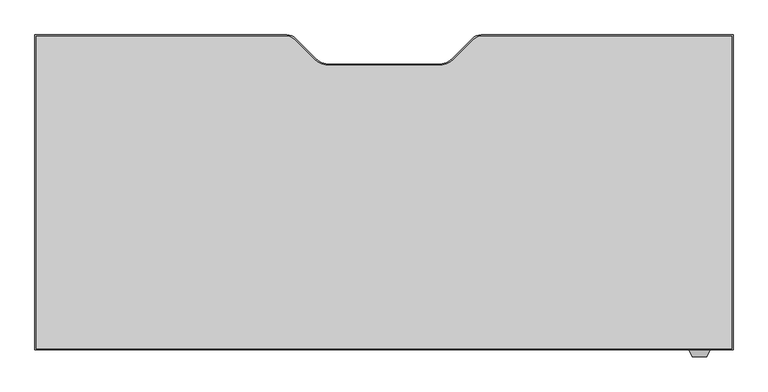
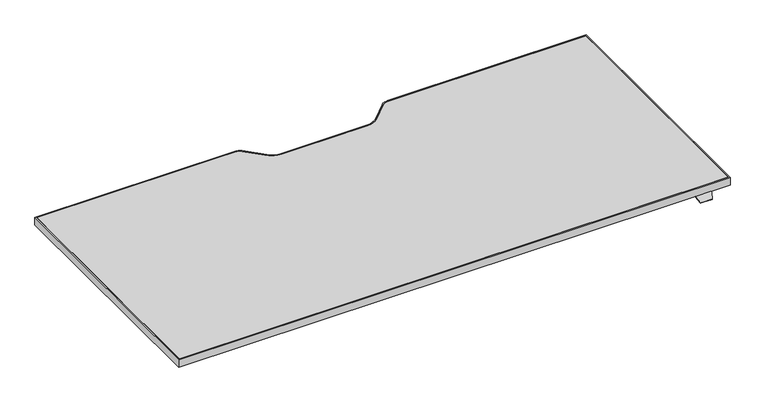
"""IFC4 building model written with IfcOpenShell, lengths in millimetres: furniture geometry, Steelcase Turnstone - Bivi - Height Adjustable Desk - C Base : 30D x 66.5W."""

from ifc_helpers import new_model, si_unit, point, frame, frame_2d, origin, place, context, project, spatial, polyline, circle_curve, trimmed, segment, composite_curve, outline, extrude, faceted_brep, source, transform, mapped, element, save


def furniture_a3421a4a(model_context):
    return source(origin(), model_context, "Body", "SolidModel", [
        faceted_brep([(398.5677913, -478.5301693, 760.9984131), (398.5677913, -476.0074599, 760.9984131), (398.5677913, -476.0074599, 762.4), (398.5677913, -478.5490853, 762.4), (398.5677913, -479.8594921, 761.3004382), (398.5677913, -479.8594921, 759.8829789), (348.9948135, -478.5490853, 762.4), (348.9948135, -476.0074599, 762.4), (348.9948135, -476.0074599, 760.9984131), (348.9948135, -478.5301693, 760.9984131), (348.9948135, -479.8594921, 759.8829789), (348.9948135, -479.8594921, 761.3004382), (391.5858363, -494.8323429, 748.7367246), (355.9767685, -494.8323429, 748.7367246), (355.6173686, -494.0616074, 747.9659891), (391.9452362, -494.0616074, 747.9659891)], [[[0, 1, 2, 3, 4, 5]], [[6, 7, 8, 9, 10, 11]], [[12, 13, 14, 15]], [[9, 0, 5, 15, 14, 10]], [[1, 0, 9, 8]], [[2, 1, 8, 7]], [[3, 2, 7, 6]], [[3, 6, 11, 13, 12, 4]], [[5, 4, 12, 15]], [[11, 10, 14, 13]]]),
        extrude(outline(composite_curve([segment(polyline([(-1233.7785908, 283.4509147), (-623.9070191, 283.4509147)]), True, "CONTINUOUS"), segment(trimmed(circle_curve(frame_2d((-623.9070191, 254.7489147)), 28.702), [point((-623.9070191, 283.4509147))], [point((-603.6116402, 275.0442935))], False, "CARTESIAN"), True, "CONTINUOUS"), segment(polyline([(-603.6116402, 275.0442935), (-556.0972358, 227.5298891)]), True, "CONTINUOUS"), segment(trimmed(circle_curve(frame_2d((-520.1762113, 263.4509136)), 50.8), [point((-556.0972358, 227.5298891))], [point((-520.1762113, 212.6509136))], True, "CARTESIAN"), True, "CONTINUOUS"), segment(polyline([(-520.1762113, 212.6509136), (-258.2809703, 212.6509136)]), True, "CONTINUOUS"), segment(trimmed(circle_curve(frame_2d((-258.2809703, 263.4509136)), 50.8), [point((-258.2809703, 212.6509136))], [point((-222.3599458, 227.5298891))], True, "CARTESIAN"), True, "CONTINUOUS"), segment(polyline([(-222.3599458, 227.5298891), (-174.8455414, 275.0442935)]), True, "CONTINUOUS"), segment(trimmed(circle_curve(frame_2d((-154.5501625, 254.7489147)), 28.702), [point((-174.8455414, 275.0442935))], [point((-154.5501625, 283.4509147))], False, "CARTESIAN"), True, "CONTINUOUS"), segment(polyline([(-154.5501625, 283.4509147), (455.3214092, 283.4509147), (455.3214092, -478.5490853), (-1233.7785908, -478.5490853), (-1233.7785908, 283.4509147)]), True, "CONTINUOUS")], self_intersect=False), holes=[composite_curve([segment(polyline([(-1230.3987543, 280.1489147), (-1230.3987543, -475.2470853), (452.0194092, -475.2470853), (452.0194092, 280.1489147), (-154.5501625, 280.1489147)]), True, "CONTINUOUS"), segment(trimmed(circle_curve(frame_2d((-154.5501625, 254.7489147)), 25.4), [point((-154.5501625, 280.1489147))], [point((-172.5106748, 272.7094269))], True, "CARTESIAN"), True, "CONTINUOUS"), segment(polyline([(-172.5106748, 272.7094269), (-220.527602, 224.6924998)]), True, "CONTINUOUS"), segment(trimmed(circle_curve(frame_2d((-256.4486265, 260.6135242)), 50.8), [point((-220.527602, 224.6924998))], [point((-256.4486265, 209.8135242))], False, "CARTESIAN"), True, "CONTINUOUS"), segment(polyline([(-256.4486265, 209.8135242), (-389.2285908, 209.8135242), (-522.0085552, 209.8135242)]), True, "CONTINUOUS"), segment(trimmed(circle_curve(frame_2d((-522.0085552, 260.6135242)), 50.8), [point((-522.0085552, 209.8135242))], [point((-557.9295796, 224.6924998))], False, "CARTESIAN"), True, "CONTINUOUS"), segment(polyline([(-557.9295796, 224.6924998), (-605.9465068, 272.7094269)]), True, "CONTINUOUS"), segment(trimmed(circle_curve(frame_2d((-623.9070191, 254.7489147)), 25.4), [point((-605.9465068, 272.7094269))], [point((-623.9070191, 280.1489147))], True, "CARTESIAN"), True, "CONTINUOUS"), segment(polyline([(-623.9070191, 280.1489147), (-1230.3987543, 280.1489147)]), True, "CONTINUOUS")], self_intersect=False)]), frame((0.0, 0.0, 762.4), z_axis=(0.0, 0.0, 1.0), x_axis=(1.0, 0.0, 0.0)), (0.0, 0.0, 1.0), 25.0),
        extrude(outline(composite_curve([segment(polyline([(-1230.3987543, 280.1489147), (-623.9070191, 280.1489147)]), True, "CONTINUOUS"), segment(trimmed(circle_curve(frame_2d((-623.9070191, 254.7489147)), 25.4), [point((-623.9070191, 280.1489147))], [point((-605.9465068, 272.7094269))], False, "CARTESIAN"), True, "CONTINUOUS"), segment(polyline([(-605.9465068, 272.7094269), (-557.9295796, 224.6924998)]), True, "CONTINUOUS"), segment(trimmed(circle_curve(frame_2d((-522.0085552, 260.6135242)), 50.8), [point((-557.9295796, 224.6924998))], [point((-522.0085552, 209.8135242))], True, "CARTESIAN"), True, "CONTINUOUS"), segment(polyline([(-522.0085552, 209.8135242), (-389.2285908, 209.8135242), (-256.4486265, 209.8135242)]), True, "CONTINUOUS"), segment(trimmed(circle_curve(frame_2d((-256.4486265, 260.6135242)), 50.8), [point((-256.4486265, 209.8135242))], [point((-220.527602, 224.6924998))], True, "CARTESIAN"), True, "CONTINUOUS"), segment(polyline([(-220.527602, 224.6924998), (-172.5106748, 272.7094269)]), True, "CONTINUOUS"), segment(trimmed(circle_curve(frame_2d((-154.5501625, 254.7489147)), 25.4), [point((-172.5106748, 272.7094269))], [point((-154.5501625, 280.1489147))], False, "CARTESIAN"), True, "CONTINUOUS"), segment(polyline([(-154.5501625, 280.1489147), (452.0194092, 280.1489147), (452.0194092, -475.2470853), (-1230.3987543, -475.2470853), (-1230.3987543, 280.1489147)]), True, "CONTINUOUS")], self_intersect=False)), frame((0.0, 0.0, 762.4), z_axis=(0.0, 0.0, 1.0), x_axis=(1.0, 0.0, 0.0)), (0.0, 0.0, 1.0), 25.0),
    ])


if __name__ == "__main__":
    model = new_model("IFC4")
    model_context = context("Model", 3, world=origin())
    ifc_project = project(units=[si_unit("LENGTHUNIT", "METRE", prefix="MILLI")], contexts=[model_context])
    site = spatial("IfcSite", under=ifc_project)
    building = spatial("IfcBuilding", under=site)
    placement = place(None, origin())
    furniture_shape = furniture_a3421a4a(model_context)
    element("IfcFurniture", 1, ObjectType="Steelcase Turnstone - Bivi - Height Adjustable Desk - C Base : 30D x 66.5W", at=placement, inside=building, context=model_context, shape_type="MappedRepresentation", body=[
        mapped(furniture_shape, transform((0.0, 0.0, 0.0), x_axis=(1.0, 0.0, 0.0), y_axis=(0.0, 1.0, 0.0), z_axis=(0.0, 0.0, 1.0))),
    ])
    save(model, "model.ifc")
